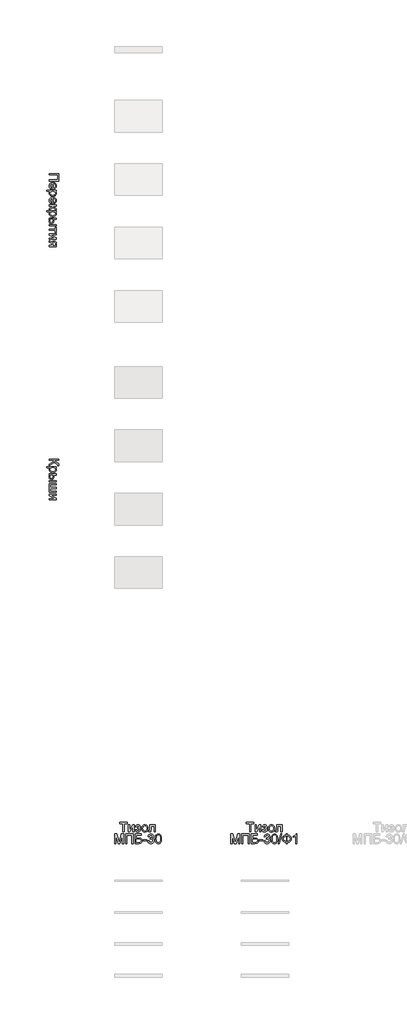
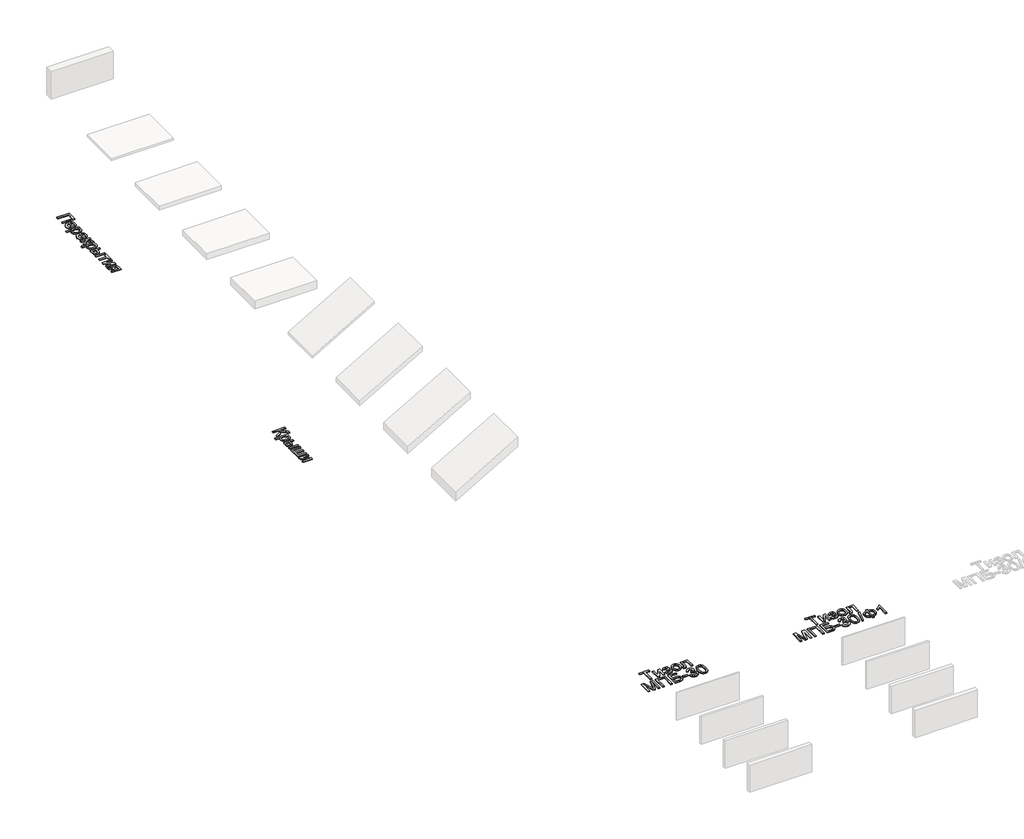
# One storey, part 27 of 35: 4 proxies.
"""IFC4 building model written with IfcOpenShell, lengths in millimetres."""

from ifc_helpers import new_model, si_unit, origin, origin_with_axes, place, context, project, spatial, polyline, outline, extrude, element, save

model = new_model("IFC4")

# Units and contexts
model_context = context("Model", 3, world=origin())
ifc_project = project(units=[si_unit("LENGTHUNIT", "METRE", prefix="MILLI")], contexts=[model_context])

# Site, building, storey
site = spatial("IfcSite", under=ifc_project)
building = spatial("IfcBuilding", under=site)
storey = spatial("IfcBuildingStorey", under=building, Name="Этаж 01", Elevation=0.0)

# Proxies
placement = place(None, origin())
element("IfcBuildingElementProxy", 1, Name="600 мм Arial", ObjectType="600 мм Arial", at=placement, inside=storey, context=model_context, shape_type="SweptSolid", body=[
    extrude(outline(polyline([(23273.4875705, -3136.6767763), (23273.4875705, -3372.1212533), (22972.1186401, -3372.1212533), (22972.1186401, -3334.450137), (23235.8164542, -3334.450137), (23235.8164542, -3174.3478927), (22972.1186401, -3174.3478927), (22972.1186401, -3136.6767763), (23273.4875705, -3136.6767763)])), origin_with_axes(), (0.0, 0.0, 1.0), 20.0),
    extrude(outline(polyline([(23038.0430936, -3588.2887136), (23033.3342041, -3625.2240659), (23005.5039311, -3611.9159348), (22984.7002043, -3590.6799466), (22971.732364, -3561.994348), (22967.4097505, -3526.3373856), (22969.2744524, -3502.9630834), (22974.868558, -3482.1363639), (22984.1920673, -3463.8572273), (22997.2449803, -3448.1256735), (23013.6640136, -3435.4751314), (23033.0858837, -3426.4390298), (23055.5105906, -3421.0173689), (23080.9381343, -3419.2101486), (23107.2279013, -3421.035763), (23130.3998685, -3426.5126062), (23150.4540358, -3435.6406783), (23167.3904031, -3448.4199791), (23180.8456871, -3464.1101462), (23190.4566042, -3481.970817), (23196.2231545, -3502.0019917), (23198.1453379, -3524.2036701), (23196.227753, -3545.6902778), (23190.4749983, -3565.121345), (23180.8870738, -3582.4968715), (23167.4639795, -3597.8168573), (23150.5644004, -3610.3225459), (23130.5470213, -3619.2551806), (23107.4118423, -3624.6147614), (23081.1588634, -3626.4012883), (23071.0053204, -3626.1805591), (23071.0053204, -3456.8812649), (23042.8071655, -3463.4019733), (23022.077015, -3478.5495145), (23009.3299039, -3500.410902), (23005.0808668, -3527.0731496), (23007.0490355, -3547.1227184), (23012.9535415, -3564.0085019), (23023.1622669, -3577.7305004), (23038.0430936, -3588.2887136)]), holes=[polyline([(23108.6764367, -3456.8812649), (23108.6764367, -3588.730172), (23128.5788526, -3583.6350064), (23142.8158858, -3573.6470102), (23156.0596377, -3551.6844551), (23160.4742216, -3524.0565173), (23156.9517515, -3498.6634626), (23146.3843412, -3477.6665977), (23129.9124249, -3463.0708795), (23108.6764367, -3456.8812649)])]), origin_with_axes(), (0.0, 0.0, 1.0), 20.0),
    extrude(outline(polyline([(22887.3586284, -3664.0724046), (23193.4364484, -3664.0724046), (23193.4364484, -3701.7435209), (23156.5010961, -3701.7435209), (23174.7204519, -3714.0307796), (23187.7342775, -3727.7895662), (23195.5425728, -3743.8292212), (23198.1453379, -3762.9590849), (23194.5033062, -3788.4349131), (23183.5772109, -3810.7101679), (23166.0292397, -3828.8467503), (23142.5215802, -3841.9065611), (23114.7648837, -3849.7976299), (23084.4698014, -3852.4279862), (23052.2525357, -3849.4573391), (23023.4381784, -3840.5453977), (22999.4890605, -3825.9772707), (22981.867513, -3806.0380666), (22971.0241911, -3782.8155156), (22967.4097505, -3758.3973482), (22969.8285747, -3741.0793033), (22977.085047, -3725.6190624), (22988.0387334, -3712.3845076), (23001.5491997, -3701.7435209), (22887.3586284, -3701.7435209), (22887.3586284, -3664.0724046)]), holes=[polyline([(23081.0117107, -3701.7435209), (23047.2401435, -3705.817814), (23023.6221194, -3718.0406933), (23009.71618, -3736.0761081), (23005.0808668, -3757.5880078), (23009.8817269, -3779.4493954), (23024.284307, -3797.9446627), (23048.7668538, -3810.5538181), (23083.8076138, -3814.7568699), (23117.39524, -3810.6549856), (23141.3443579, -3798.3493329), (23155.6917557, -3780.3415092), (23160.4742216, -3759.1331122), (23155.388253, -3737.8419417), (23140.1303473, -3719.1443393), (23115.178751, -3706.0937255), (23081.0117107, -3701.7435209)])]), origin_with_axes(), (0.0, 0.0, 1.0), 20.0),
    extrude(outline(polyline([(23038.0430936, -4049.7598884), (23033.3342041, -4086.6952407), (23005.5039311, -4073.3871095), (22984.7002043, -4052.1511213), (22971.732364, -4023.4655228), (22967.4097505, -3987.8085604), (22969.2744524, -3964.4342581), (22974.868558, -3943.6075387), (22984.1920673, -3925.328402), (22997.2449803, -3909.5968482), (23013.6640136, -3896.9463061), (23033.0858837, -3887.9102046), (23055.5105906, -3882.4885437), (23080.9381343, -3880.6813234), (23107.2279013, -3882.5069378), (23130.3998685, -3887.983781), (23150.4540358, -3897.111853), (23167.3904031, -3909.8911538), (23180.8456871, -3925.5813209), (23190.4566042, -3943.4419918), (23196.2231545, -3963.4731664), (23198.1453379, -3985.6748448), (23196.227753, -4007.1614526), (23190.4749983, -4026.5925197), (23180.8870738, -4043.9680462), (23167.4639795, -4059.2880321), (23150.5644004, -4071.7937206), (23130.5470213, -4080.7263553), (23107.4118423, -4086.0859361), (23081.1588634, -4087.8724631), (23071.0053204, -4087.6517339), (23071.0053204, -3918.3524397), (23042.8071655, -3924.8731481), (23022.077015, -3940.0206892), (23009.3299039, -3961.8820768), (23005.0808668, -3988.5443244), (23007.0490355, -4008.5938931), (23012.9535415, -4025.4796767), (23023.1622669, -4039.2016751), (23038.0430936, -4049.7598884)]), holes=[polyline([(23108.6764367, -3918.3524397), (23108.6764367, -4050.2013468), (23128.5788526, -4045.1061811), (23142.8158858, -4035.118185), (23156.0596377, -4013.1556299), (23160.4742216, -3985.527692), (23156.9517515, -3960.1346373), (23146.3843412, -3939.1377724), (23129.9124249, -3924.5420543), (23108.6764367, -3918.3524397)])]), origin_with_axes(), (0.0, 0.0, 1.0), 20.0),
    extrude(outline(polyline([(23193.4364484, -4125.5435794), (23193.4364484, -4163.2146957), (23099.2586576, -4163.2146957), (23100.9509148, -4178.5369808), (23106.0276863, -4188.4514006), (23119.2714381, -4197.2253861), (23145.4646362, -4209.1263687), (23179.4937208, -4226.3064579), (23190.5669688, -4241.4631961), (23193.4364484, -4269.0175575), (23193.4364484, -4276.2280446), (23155.5446029, -4276.2280446), (23155.7653321, -4266.0745015), (23151.7922065, -4247.6804018), (23126.99696, -4234.7309556), (23100.1783626, -4219.5374291), (23087.0449754, -4198.2370616), (23081.7428761, -4210.1748324), (23072.3848779, -4222.0022385), (23041.5011844, -4245.325957), (22972.1186401, -4285.6458237), (22972.1186401, -4242.8243594), (23040.0296564, -4203.3138332), (23068.7612402, -4183.4482054), (23073.9759675, -4174.159185), (23075.7142099, -4163.2146957), (22972.1186401, -4163.2146957), (22972.1186401, -4125.5435794), (23193.4364484, -4125.5435794)])), origin_with_axes(), (0.0, 0.0, 1.0), 20.0),
    extrude(outline(polyline([(22887.3586284, -4309.1902714), (23193.4364484, -4309.1902714), (23193.4364484, -4346.8613877), (23156.5010961, -4346.8613877), (23174.7204519, -4359.1486463), (23187.7342775, -4372.9074329), (23195.5425728, -4388.9470879), (23198.1453379, -4408.0769517), (23194.5033062, -4433.5527798), (23183.5772109, -4455.8280347), (23166.0292397, -4473.964617), (23142.5215802, -4487.0244278), (23114.7648837, -4494.9154966), (23084.4698014, -4497.5458529), (23052.2525357, -4494.5752058), (23023.4381784, -4485.6632645), (22999.4890605, -4471.0951375), (22981.867513, -4451.1559333), (22971.0241911, -4427.9333824), (22967.4097505, -4403.5152149), (22969.8285747, -4386.19717), (22977.085047, -4370.7369292), (22988.0387334, -4357.5023744), (23001.5491997, -4346.8613877), (22887.3586284, -4346.8613877), (22887.3586284, -4309.1902714)]), holes=[polyline([(23081.0117107, -4346.8613877), (23047.2401435, -4350.9356808), (23023.6221194, -4363.1585601), (23009.71618, -4381.1939749), (23005.0808668, -4402.7058745), (23009.8817269, -4424.5672621), (23024.284307, -4443.0625294), (23048.7668538, -4455.6716848), (23083.8076138, -4459.8747366), (23117.39524, -4455.7728524), (23141.3443579, -4443.4671996), (23155.6917557, -4425.4593759), (23160.4742216, -4404.2509789), (23155.388253, -4382.9598085), (23140.1303473, -4364.2622061), (23115.178751, -4351.2115923), (23081.0117107, -4346.8613877)])]), origin_with_axes(), (0.0, 0.0, 1.0), 20.0),
    extrude(outline(polyline([(23193.4364484, -4539.9258587), (23193.4364484, -4577.5969751), (23113.3853262, -4577.5969751), (23113.3853262, -4624.1708356), (23108.6672396, -4664.426323), (23102.7696314, -4680.6430212), (23094.5129799, -4694.2523557), (23084.1823936, -4705.0198019), (23072.0629811, -4712.7108348), (23058.1547424, -4717.3254546), (23042.4576776, -4718.8636612), (23015.5011244, -4713.7041162), (22992.75682, -4698.2254813), (22983.7276163, -4686.3635862), (22977.2781851, -4671.4160809), (22972.1186401, -4632.2642395), (22972.1186401, -4539.9258587), (23193.4364484, -4539.9258587)]), holes=[polyline([(23009.7897564, -4577.5969751), (23009.7897564, -4616.2981609), (23011.7671221, -4646.2989377), (23017.6992193, -4666.2565359), (23027.8251712, -4677.4585426), (23042.3841012, -4681.1925449), (23054.6897539, -4678.4242329), (23065.5606669, -4670.1192968), (23073.1758242, -4652.3597935), (23075.7142099, -4621.2277797), (23075.7142099, -4577.5969751), (23009.7897564, -4577.5969751)])]), origin_with_axes(), (0.0, 0.0, 1.0), 20.0),
    extrude(outline(polyline([(23193.4364484, -4747.1169984), (23193.4364484, -4784.7881147), (22972.1186401, -4784.7881147), (22972.1186401, -4747.1169984), (23193.4364484, -4747.1169984)])), origin_with_axes(), (0.0, 0.0, 1.0), 20.0),
    extrude(outline(polyline([(23193.4364484, -4822.459231), (23193.4364484, -5001.3970335), (23155.7653321, -5001.3970335), (23155.7653321, -4930.7636904), (22972.1186401, -4930.7636904), (22972.1186401, -4893.0925741), (23155.7653321, -4893.0925741), (23155.7653321, -4822.459231), (23193.4364484, -4822.459231)])), origin_with_axes(), (0.0, 0.0, 1.0), 20.0),
    extrude(outline(polyline([(23193.4364484, -5034.3592603), (23193.4364484, -5072.0303766), (23024.652189, -5072.0303766), (23193.4364484, -5164.5894866), (23193.4364484, -5213.2970627), (22972.1186401, -5213.2970627), (22972.1186401, -5175.6259464), (23139.8728299, -5175.6259464), (22972.1186401, -5083.6554476), (22972.1186401, -5034.3592603), (23193.4364484, -5034.3592603)])), origin_with_axes(), (0.0, 0.0, 1.0), 20.0),
    extrude(outline(polyline([(23193.4364484, -5439.3237606), (22972.1186401, -5439.3237606), (22972.1186401, -5401.6526443), (23056.8786518, -5401.6526443), (23056.8786518, -5381.1248289), (23052.0961858, -5353.1657973), (23041.6667313, -5342.0005787), (23019.9432995, -5326.8990228), (22972.1186401, -5296.879852), (22972.1186401, -5253.3226238), (23032.5984401, -5291.1408929), (23054.3034778, -5307.8427355), (23063.9419861, -5323.2202029), (23071.8330549, -5297.4684632), (23086.8242462, -5279.3686691), (23106.7634503, -5268.663303), (23129.4985576, -5265.0948476), (23155.2870855, -5269.9692841), (23175.7045362, -5284.5925934), (23189.0034703, -5308.4497408), (23193.4364484, -5341.0256914), (23193.4364484, -5439.3237606)]), holes=[polyline([(23155.7653321, -5401.6526443), (23155.7653321, -5351.9885749), (23153.5856312, -5326.3380028), (23147.0465288, -5311.7790728), (23137.5827645, -5305.0192412), (23126.6290781, -5302.7659639), (23112.2724832, -5306.086099), (23102.3120782, -5316.046504), (23096.4903456, -5334.4498008), (23094.5497681, -5363.0986112), (23094.5497681, -5401.6526443), (23155.7653321, -5401.6526443)])]), origin_with_axes(), (0.0, 0.0, 1.0), 20.0),
])
element("IfcBuildingElementProxy", 2, Name="600 мм Arial", ObjectType="600 мм Arial", at=placement, inside=storey, context=model_context, shape_type="SweptSolid", body=[
    extrude(outline(polyline([(23273.4875705, -12145.2368465), (23273.4875705, -12182.9079628), (23141.6386635, -12182.9079628), (23144.131064, -12208.4113821), (23151.6082655, -12225.0304512), (23169.2022219, -12238.4673411), (23202.0448871, -12254.4242226), (23244.1673755, -12275.2095554), (23255.5809144, -12285.2343397), (23265.0262846, -12298.7540031), (23271.3722491, -12314.8028551), (23273.4875705, -12332.4152056), (23273.0461121, -12357.1368757), (23235.3749958, -12357.1368757), (23235.595725, -12348.8227426), (23235.8164542, -12340.5086095), (23233.55398, -12323.2549439), (23226.7665571, -12311.0780499), (23212.5111298, -12300.593413), (23187.9917948, -12288.7108246), (23157.4575892, -12274.1335005), (23140.7557467, -12262.0393799), (23125.1575501, -12236.0301229), (23118.9495414, -12250.6212425), (23108.1246137, -12265.1111946), (23072.6240012, -12293.7875961), (22972.1186401, -12357.1368757), (22972.1186401, -12313.4324947), (23057.0258046, -12259.8688762), (23084.2582693, -12239.184711), (23101.355585, -12222.1609717), (23110.3778909, -12204.7509562), (23113.3853262, -12182.9079628), (22972.1186401, -12182.9079628), (22972.1186401, -12145.2368465), (23273.4875705, -12145.2368465)])), origin_with_axes(), (0.0, 0.0, 1.0), 20.0),
    extrude(outline(polyline([(22887.3586284, -12385.3902129), (23193.4364484, -12385.3902129), (23193.4364484, -12423.0613292), (23156.5010961, -12423.0613292), (23174.7204519, -12435.3485879), (23187.7342775, -12449.1073745), (23195.5425728, -12465.1470295), (23198.1453379, -12484.2768932), (23194.5033062, -12509.7527214), (23183.5772109, -12532.0279762), (23166.0292397, -12550.1645586), (23142.5215802, -12563.2243694), (23114.7648837, -12571.1154382), (23084.4698014, -12573.7457945), (23052.2525357, -12570.7751473), (23023.4381784, -12561.863206), (22999.4890605, -12547.295079), (22981.867513, -12527.3558749), (22971.0241911, -12504.1333239), (22967.4097505, -12479.7151565), (22969.8285747, -12462.3971116), (22977.085047, -12446.9368707), (22988.0387334, -12433.7023159), (23001.5491997, -12423.0613292), (22887.3586284, -12423.0613292), (22887.3586284, -12385.3902129)]), holes=[polyline([(23081.0117107, -12423.0613292), (23047.2401435, -12427.1356223), (23023.6221194, -12439.3585016), (23009.71618, -12457.3939164), (23005.0808668, -12478.9058161), (23009.8817269, -12500.7672037), (23024.284307, -12519.262471), (23048.7668538, -12531.8716264), (23083.8076138, -12536.0746782), (23117.39524, -12531.9727939), (23141.3443579, -12519.6671412), (23155.6917557, -12501.6593175), (23160.4742216, -12480.4509205), (23155.388253, -12459.15975), (23140.1303473, -12440.4621476), (23115.178751, -12427.4115338), (23081.0117107, -12423.0613292)])]), origin_with_axes(), (0.0, 0.0, 1.0), 20.0),
    extrude(outline(polyline([(23193.4364484, -12616.1258003), (23193.4364484, -12653.7969166), (23113.3853262, -12653.7969166), (23113.3853262, -12700.3707772), (23108.6672396, -12740.6262645), (23102.7696314, -12756.8429627), (23094.5129799, -12770.4522973), (23084.1823936, -12781.2197434), (23072.0629811, -12788.9107764), (23058.1547424, -12793.5253962), (23042.4576776, -12795.0636028), (23015.5011244, -12789.9040578), (22992.75682, -12774.4254228), (22983.7276163, -12762.5635277), (22977.2781851, -12747.6160224), (22972.1186401, -12708.4641811), (22972.1186401, -12616.1258003), (23193.4364484, -12616.1258003)]), holes=[polyline([(23009.7897564, -12653.7969166), (23009.7897564, -12692.4981025), (23011.7671221, -12722.4988792), (23017.6992193, -12742.4564774), (23027.8251712, -12753.6584842), (23042.3841012, -12757.3924865), (23054.6897539, -12754.6241744), (23065.5606669, -12746.3192384), (23073.1758242, -12728.5597351), (23075.7142099, -12697.4277212), (23075.7142099, -12653.7969166), (23009.7897564, -12653.7969166)])]), origin_with_axes(), (0.0, 0.0, 1.0), 20.0),
    extrude(outline(polyline([(23193.4364484, -12823.31694), (23193.4364484, -12860.9880563), (22972.1186401, -12860.9880563), (22972.1186401, -12823.31694), (23193.4364484, -12823.31694)])), origin_with_axes(), (0.0, 0.0, 1.0), 20.0),
    extrude(outline(polyline([(23193.4364484, -12917.4947308), (23193.4364484, -12955.1658471), (23009.7897564, -12955.1658471), (23009.7897564, -13039.9258587), (23193.4364484, -13039.9258587), (23193.4364484, -13077.5969751), (23009.7897564, -13077.5969751), (23009.7897564, -13162.3569867), (23193.4364484, -13162.3569867), (23193.4364484, -13200.0281031), (22972.1186401, -13200.0281031), (22972.1186401, -12917.4947308), (23193.4364484, -12917.4947308)])), origin_with_axes(), (0.0, 0.0, 1.0), 20.0),
    extrude(outline(polyline([(23193.4364484, -13251.825888), (23193.4364484, -13289.4970043), (23024.652189, -13289.4970043), (23193.4364484, -13382.0561143), (23193.4364484, -13430.7636904), (22972.1186401, -13430.7636904), (22972.1186401, -13393.0925741), (23139.8728299, -13393.0925741), (22972.1186401, -13301.1220753), (22972.1186401, -13251.825888), (23193.4364484, -13251.825888)])), origin_with_axes(), (0.0, 0.0, 1.0), 20.0),
])
element("IfcBuildingElementProxy", 3, Name="600 мм Arial", ObjectType="600 мм Arial", at=placement, inside=storey, context=model_context, shape_type="SweptSolid", body=[
    extrude(outline(polyline([(25296.4713258, -23914.0239469), (25296.4713258, -23650.3261327), (25197.5846455, -23650.3261327), (25197.5846455, -23612.6550164), (25433.0291224, -23612.6550164), (25433.0291224, -23650.3261327), (25334.1424421, -23650.3261327), (25334.1424421, -23914.0239469), (25296.4713258, -23914.0239469)])), origin_with_axes(), (0.0, 0.0, 1.0), 20.0),
    extrude(outline(polyline([(25470.7002387, -23692.7061386), (25508.371355, -23692.7061386), (25508.371355, -23861.490398), (25600.930465, -23692.7061386), (25649.6380412, -23692.7061386), (25649.6380412, -23914.0239469), (25611.9669249, -23914.0239469), (25611.9669249, -23746.2697571), (25519.9964261, -23914.0239469), (25470.7002387, -23914.0239469), (25470.7002387, -23692.7061386)])), origin_with_axes(), (0.0, 0.0, 1.0), 20.0),
    extrude(outline(polyline([(25757.9425006, -23815.1372666), (25757.9425006, -23777.4661503), (25787.6673658, -23775.9946223), (25802.6769512, -23768.1587358), (25807.9744519, -23760.8102929), (25809.7402855, -23751.787987), (25807.3766437, -23741.0734239), (25800.2857182, -23732.7684878), (25789.4607905, -23727.443396), (25775.8951419, -23725.6683653), (25762.1823406, -23727.4341989), (25750.6952253, -23732.7316996), (25741.433796, -23741.5608675), (25734.3980529, -23753.9217026), (25692.018047, -23749.212813), (25703.256842, -23722.4310038), (25720.3449607, -23703.30114), (25743.2824031, -23691.8232218), (25772.0691692, -23687.997249), (25803.559868, -23692.6601533), (25827.3986213, -23706.6488662), (25842.4082067, -23727.1123022), (25847.4114018, -23751.1993758), (25845.6317726, -23763.5602108), (25840.2928852, -23774.5966707), (25831.3947394, -23784.3087554), (25818.9373354, -23792.6964649), (25833.4778712, -23803.1627076), (25843.8429464, -23816.1673362), (25850.0509551, -23831.7471386), (25852.1202913, -23849.9389033), (25846.8687758, -23877.6680087), (25831.1142294, -23899.6397609), (25805.9235098, -23913.9595675), (25772.3634748, -23918.7328364), (25739.5392038, -23914.3182525), (25714.4220605, -23901.0745006), (25697.0120451, -23879.0015809), (25687.3091575, -23848.0994933), (25729.6891633, -23843.3906038), (25736.0351277, -23859.3198942), (25746.6853115, -23871.2024826), (25760.4073099, -23878.5969107), (25775.9687183, -23881.0617201), (25791.1254565, -23878.6980783), (25803.4862916, -23871.6071528), (25811.7084542, -23860.8374074), (25814.449175, -23847.4373057), (25812.7477208, -23836.8239102), (25807.6433581, -23827.6452544), (25793.1488075, -23817.0502529), (25765.3001405, -23814.9165374), (25757.9425006, -23815.1372666)])), origin_with_axes(), (0.0, 0.0, 1.0), 20.0),
    extrude(outline(polyline([(25889.7914076, -23803.3650427), (25891.8285542, -23774.7024368), (25897.9399938, -23750.0037593), (25908.1257266, -23729.2690104), (25922.3857524, -23712.4981899), (25936.7423473, -23701.7790283), (25952.5888642, -23694.1224843), (25969.9253032, -23689.5285578), (25988.7516643, -23687.997249), (26009.5346978, -23689.8619509), (26028.32657, -23695.4560565), (26045.1272808, -23704.7795658), (26059.9368304, -23717.8324788), (26072.0240532, -23734.1733372), (26080.6577838, -23753.3606825), (26085.8380221, -23775.3945148), (26087.5647682, -23800.274834), (26084.5113477, -23838.3322264), (26075.351086, -23867.3029335), (26060.3506976, -23888.9987741), (26039.7768971, -23905.2315672), (26015.3403355, -23915.3575191), (25988.7516643, -23918.7328364), (25967.6651282, -23916.8750323), (25948.6985121, -23911.3016201), (25931.851816, -23902.0125997), (25917.1250399, -23889.0079712), (25905.1665758, -23872.5084637), (25896.6248157, -23852.7348065), (25891.4997596, -23829.6869995), (25889.7914076, -23803.3650427)]), holes=[polyline([(25927.4625239, -23803.2914663), (25931.8219256, -23837.3849302), (25944.9001305, -23861.674339), (25964.5818173, -23876.2148748), (25988.7516643, -23881.0617201), (26012.8111468, -23876.1872837), (26032.4560454, -23861.5639744), (26045.5342503, -23836.9526689), (26049.8936519, -23802.1142439), (26045.5066591, -23769.0140614), (26032.3456808, -23745.0557465), (26012.6731911, -23730.5152106), (25988.7516643, -23725.6683653), (25964.5818173, -23730.4968165), (25944.9001305, -23744.9821701), (25931.8219256, -23769.2163965), (25927.4625239, -23803.2914663)])]), origin_with_axes(), (0.0, 0.0, 1.0), 20.0),
    extrude(outline(polyline([(26148.7803322, -23692.7061386), (26318.3003556, -23692.7061386), (26318.3003556, -23913.8032177), (26280.6292393, -23913.8032177), (26280.6292393, -23730.3772549), (26186.4514485, -23730.3772549), (26186.4514485, -23835.9593875), (26183.9130628, -23884.6669637), (26179.158188, -23895.6942265), (26169.9703352, -23905.2315672), (26156.0276075, -23911.8258519), (26137.0081084, -23914.0239469), (26106.4003264, -23912.1109605), (26106.4003264, -23876.3528306), (26123.2493218, -23876.3528306), (26140.2822581, -23874.035174), (26147.0880751, -23866.6775341), (26148.7803322, -23833.8256719), (26148.7803322, -23692.7061386)])), origin_with_axes(), (0.0, 0.0, 1.0), 20.0),
    extrude(outline(polyline([(25039.836846, -24279.9484004), (25039.836846, -23978.57947), (25104.6576535, -23978.57947), (25166.3146759, -24190.994534), (25178.7490874, -24235.3611026), (25192.2135684, -24187.315714), (25252.8405212, -23978.57947), (25317.6613287, -23978.57947), (25317.6613287, -24279.9484004), (25279.9902124, -24279.9484004), (25279.9902124, -24016.2505863), (25204.2800978, -24279.9484004), (25153.2180769, -24279.9484004), (25077.5079623, -24016.2505863), (25077.5079623, -24279.9484004), (25039.836846, -24279.9484004)])), origin_with_axes(), (0.0, 0.0, 1.0), 20.0),
    extrude(outline(polyline([(25383.5857823, -23978.57947), (25619.0302592, -23978.57947), (25619.0302592, -24279.9484004), (25581.3591429, -24279.9484004), (25581.3591429, -24016.2505863), (25421.2568986, -24016.2505863), (25421.2568986, -24279.9484004), (25383.5857823, -24279.9484004), (25383.5857823, -23978.57947)])), origin_with_axes(), (0.0, 0.0, 1.0), 20.0),
    extrude(outline(polyline([(25684.9547127, -23978.57947), (25873.3102942, -23978.57947), (25873.3102942, -24016.2505863), (25722.625829, -24016.2505863), (25722.625829, -24105.7194875), (25793.1855957, -24105.7194875), (25828.2631439, -24107.6324739), (25855.3576529, -24113.371433), (25876.1613797, -24124.4262869), (25892.3665816, -24142.2869578), (25902.7960362, -24165.2795825), (25906.272521, -24191.730298), (25903.7985146, -24213.9411734), (25896.3764953, -24234.6621268), (25884.0432515, -24252.8079062), (25866.8355711, -24267.2932598), (25840.2928852, -24276.7846152), (25799.9546244, -24279.9484004), (25684.9547127, -24279.9484004), (25684.9547127, -23978.57947)]), holes=[polyline([(25722.625829, -24242.2772841), (25803.3391388, -24242.2772841), (25831.8683875, -24239.1686812), (25852.2674441, -24229.8428727), (25864.5179146, -24214.2998584), (25868.6014047, -24192.5396384), (25866.265354, -24176.3344365), (25859.257202, -24163.0355023), (25848.0827864, -24153.1762649), (25833.247945, -24147.2901529), (25776.4837531, -24143.3906038), (25722.625829, -24143.3906038), (25722.625829, -24242.2772841)])]), origin_with_axes(), (0.0, 0.0, 1.0), 20.0),
    extrude(outline(polyline([(25934.5258582, -24190.4794992), (25934.5258582, -24152.8083829), (26052.2480967, -24152.8083829), (26052.2480967, -24190.4794992), (25934.5258582, -24190.4794992)])), origin_with_axes(), (0.0, 0.0, 1.0), 20.0),
    extrude(outline(polyline([(26085.2103235, -24199.8972783), (26122.8814398, -24195.1883887), (26131.3151345, -24218.8615951), (26143.6667725, -24234.8460678), (26160.543359, -24243.9511472), (26182.5518994, -24246.9861736), (26208.3772155, -24242.810713), (26228.3164196, -24230.2843311), (26241.0635307, -24211.5959257), (26245.3125678, -24188.9343948), (26241.1003189, -24167.4224951), (26228.4635724, -24149.9756915), (26209.3337086, -24138.4149998), (26185.6421082, -24134.5614359), (26159.2281809, -24138.6817143), (26163.4220356, -24101.010598), (26169.4553004, -24101.4520563), (26192.0248608, -24098.7481237), (26212.2031882, -24090.6363257), (26226.4402214, -24076.9143273), (26231.1858992, -24057.3797933), (26227.7462025, -24041.1102121), (26217.4271125, -24027.9124455), (26201.6817631, -24019.1660511), (26181.9632882, -24016.2505863), (26162.2080251, -24019.1936422), (26146.0580055, -24028.0228101), (26134.2673875, -24042.7380899), (26127.5903293, -24063.3394816), (26089.919213, -24058.6305921), (26101.0108552, -24024.8038427), (26120.7477242, -23999.5487437), (26147.7502627, -23983.8217884), (26180.638913, -23978.57947), (26204.3213165, -23981.163841), (26226.0723394, -23988.916954), (26244.4112569, -24001.1490304), (26257.8573438, -24017.1702913), (26266.1070975, -24035.6287704), (26268.8570155, -24055.1725014), (26266.2450533, -24073.3826601), (26258.4091668, -24089.9005617), (26245.4597206, -24103.972048), (26227.5070792, -24114.842961), (26251.0883151, -24124.3711046), (26268.5627099, -24140.5947006), (26279.3784405, -24162.6308321), (26282.9836841, -24189.5965824), (26281.1810623, -24208.708052), (26275.773197, -24226.3112055), (26266.7600881, -24242.4060428), (26254.1417357, -24256.9925639), (26238.7688668, -24269.0958815), (26221.4922086, -24277.7411084), (26202.3117611, -24282.9282446), (26181.2275242, -24284.6572899), (26162.1712369, -24283.1811634), (26144.8072067, -24278.7527839), (26129.1354337, -24271.3721514), (26115.1559179, -24261.0392659), (26103.4342778, -24248.3611326), (26094.536132, -24233.9447569), (26088.4614806, -24217.7901388), (26085.2103235, -24199.8972783)])), origin_with_axes(), (0.0, 0.0, 1.0), 20.0),
    extrude(outline(polyline([(26315.9459108, -24131.6919564), (26318.7142229, -24083.4534297), (26327.0191589, -24044.9821701), (26340.7779455, -24015.6895662), (26359.9078093, -23994.9870069), (26384.5467059, -23982.6813542), (26414.8325911, -23978.57947), (26438.045945, -23981.0074911), (26458.8312778, -23988.2915546), (26476.213702, -24000.1465519), (26489.2183306, -24016.2873745), (26499.0407798, -24036.5760665), (26506.8766663, -24060.8746723), (26512.0086202, -24091.7307746), (26513.7192715, -24131.6919564), (26510.9785506, -24179.6545715), (26502.756388, -24218.0338606), (26489.0803748, -24247.3540556), (26469.9781022, -24268.1393884), (26445.2840233, -24280.5278145), (26414.8325911, -24284.6572899), (26394.0840466, -24282.8638652), (26375.6899469, -24277.483591), (26359.6502919, -24268.5164674), (26345.9650817, -24255.9624943), (26332.8316944, -24233.2687737), (26323.4507035, -24204.9924439), (26317.822109, -24171.1335048), (26315.9459108, -24131.6919564)]), holes=[polyline([(26353.6170272, -24131.61838), (26358.0316111, -24190.8749723), (26363.549841, -24211.142971), (26371.2753629, -24225.1707713), (26390.9938379, -24241.5323231), (26414.8325911, -24246.9861736), (26438.6713444, -24241.513929), (26458.3898194, -24225.0971949), (26466.1153413, -24211.046402), (26471.6335712, -24190.7830018), (26476.0481551, -24131.61838), (26471.780724, -24073.6953598), (26466.4464351, -24053.4940398), (26458.9784306, -24039.1328464), (26439.2967438, -24021.9711513), (26414.3911328, -24016.2505863), (26390.8098969, -24021.2905696), (26371.8639741, -24036.4105196), (26363.8809348, -24052.0455044), (26358.1787639, -24073.1251427), (26353.6170272, -24131.61838)])]), origin_with_axes(), (0.0, 0.0, 1.0), 20.0),
])
element("IfcBuildingElementProxy", 4, Name="600 мм Arial", ObjectType="600 мм Arial", at=placement, inside=storey, context=model_context, shape_type="SweptSolid", body=[
    extrude(outline(polyline([(29296.4713258, -23914.0239469), (29296.4713258, -23650.3261327), (29197.5846455, -23650.3261327), (29197.5846455, -23612.6550164), (29433.0291224, -23612.6550164), (29433.0291224, -23650.3261327), (29334.1424421, -23650.3261327), (29334.1424421, -23914.0239469), (29296.4713258, -23914.0239469)])), origin_with_axes(), (0.0, 0.0, 1.0), 20.0),
    extrude(outline(polyline([(29470.7002387, -23692.7061386), (29508.371355, -23692.7061386), (29508.371355, -23861.490398), (29600.930465, -23692.7061386), (29649.6380412, -23692.7061386), (29649.6380412, -23914.0239469), (29611.9669249, -23914.0239469), (29611.9669249, -23746.2697571), (29519.9964261, -23914.0239469), (29470.7002387, -23914.0239469), (29470.7002387, -23692.7061386)])), origin_with_axes(), (0.0, 0.0, 1.0), 20.0),
    extrude(outline(polyline([(29757.9425006, -23815.1372666), (29757.9425006, -23777.4661503), (29787.6673658, -23775.9946223), (29802.6769512, -23768.1587358), (29807.9744519, -23760.8102929), (29809.7402855, -23751.787987), (29807.3766437, -23741.0734239), (29800.2857182, -23732.7684878), (29789.4607905, -23727.443396), (29775.8951419, -23725.6683653), (29762.1823406, -23727.4341989), (29750.6952253, -23732.7316996), (29741.433796, -23741.5608675), (29734.3980529, -23753.9217026), (29692.018047, -23749.212813), (29703.256842, -23722.4310038), (29720.3449607, -23703.30114), (29743.2824031, -23691.8232218), (29772.0691692, -23687.997249), (29803.559868, -23692.6601533), (29827.3986213, -23706.6488662), (29842.4082067, -23727.1123022), (29847.4114018, -23751.1993758), (29845.6317726, -23763.5602108), (29840.2928852, -23774.5966707), (29831.3947394, -23784.3087554), (29818.9373354, -23792.6964649), (29833.4778712, -23803.1627076), (29843.8429464, -23816.1673362), (29850.0509551, -23831.7471386), (29852.1202913, -23849.9389033), (29846.8687758, -23877.6680087), (29831.1142294, -23899.6397609), (29805.9235098, -23913.9595675), (29772.3634748, -23918.7328364), (29739.5392038, -23914.3182525), (29714.4220605, -23901.0745006), (29697.0120451, -23879.0015809), (29687.3091575, -23848.0994933), (29729.6891633, -23843.3906038), (29736.0351277, -23859.3198942), (29746.6853115, -23871.2024826), (29760.4073099, -23878.5969107), (29775.9687183, -23881.0617201), (29791.1254565, -23878.6980783), (29803.4862916, -23871.6071528), (29811.7084542, -23860.8374074), (29814.449175, -23847.4373057), (29812.7477208, -23836.8239102), (29807.6433581, -23827.6452544), (29793.1488075, -23817.0502529), (29765.3001405, -23814.9165374), (29757.9425006, -23815.1372666)])), origin_with_axes(), (0.0, 0.0, 1.0), 20.0),
    extrude(outline(polyline([(29889.7914076, -23803.3650427), (29891.8285542, -23774.7024368), (29897.9399938, -23750.0037593), (29908.1257266, -23729.2690104), (29922.3857524, -23712.4981899), (29936.7423473, -23701.7790283), (29952.5888642, -23694.1224843), (29969.9253032, -23689.5285578), (29988.7516643, -23687.997249), (30009.5346978, -23689.8619509), (30028.32657, -23695.4560565), (30045.1272808, -23704.7795658), (30059.9368304, -23717.8324788), (30072.0240532, -23734.1733372), (30080.6577838, -23753.3606825), (30085.8380221, -23775.3945148), (30087.5647682, -23800.274834), (30084.5113477, -23838.3322264), (30075.351086, -23867.3029335), (30060.3506976, -23888.9987741), (30039.7768971, -23905.2315672), (30015.3403355, -23915.3575191), (29988.7516643, -23918.7328364), (29967.6651282, -23916.8750323), (29948.6985121, -23911.3016201), (29931.851816, -23902.0125997), (29917.1250399, -23889.0079712), (29905.1665758, -23872.5084637), (29896.6248157, -23852.7348065), (29891.4997596, -23829.6869995), (29889.7914076, -23803.3650427)]), holes=[polyline([(29927.4625239, -23803.2914663), (29931.8219256, -23837.3849302), (29944.9001305, -23861.674339), (29964.5818173, -23876.2148748), (29988.7516643, -23881.0617201), (30012.8111468, -23876.1872837), (30032.4560454, -23861.5639744), (30045.5342503, -23836.9526689), (30049.8936519, -23802.1142439), (30045.5066591, -23769.0140614), (30032.3456808, -23745.0557465), (30012.6731911, -23730.5152106), (29988.7516643, -23725.6683653), (29964.5818173, -23730.4968165), (29944.9001305, -23744.9821701), (29931.8219256, -23769.2163965), (29927.4625239, -23803.2914663)])]), origin_with_axes(), (0.0, 0.0, 1.0), 20.0),
    extrude(outline(polyline([(30148.7803322, -23692.7061386), (30318.3003556, -23692.7061386), (30318.3003556, -23913.8032177), (30280.6292393, -23913.8032177), (30280.6292393, -23730.3772549), (30186.4514485, -23730.3772549), (30186.4514485, -23835.9593875), (30183.9130628, -23884.6669637), (30179.158188, -23895.6942265), (30169.9703352, -23905.2315672), (30156.0276075, -23911.8258519), (30137.0081084, -23914.0239469), (30106.4003264, -23912.1109605), (30106.4003264, -23876.3528306), (30123.2493218, -23876.3528306), (30140.2822581, -23874.035174), (30147.0880751, -23866.6775341), (30148.7803322, -23833.8256719), (30148.7803322, -23692.7061386)])), origin_with_axes(), (0.0, 0.0, 1.0), 20.0),
    extrude(outline(polyline([(28705.5056888, -24279.9484004), (28705.5056888, -23978.57947), (28770.3264963, -23978.57947), (28831.9835187, -24190.994534), (28844.4179301, -24235.3611026), (28857.8824112, -24187.315714), (28918.509364, -23978.57947), (28983.3301715, -23978.57947), (28983.3301715, -24279.9484004), (28945.6590552, -24279.9484004), (28945.6590552, -24016.2505863), (28869.9489406, -24279.9484004), (28818.8869197, -24279.9484004), (28743.1768051, -24016.2505863), (28743.1768051, -24279.9484004), (28705.5056888, -24279.9484004)])), origin_with_axes(), (0.0, 0.0, 1.0), 20.0),
    extrude(outline(polyline([(29049.2546251, -23978.57947), (29284.699102, -23978.57947), (29284.699102, -24279.9484004), (29247.0279857, -24279.9484004), (29247.0279857, -24016.2505863), (29086.9257414, -24016.2505863), (29086.9257414, -24279.9484004), (29049.2546251, -24279.9484004), (29049.2546251, -23978.57947)])), origin_with_axes(), (0.0, 0.0, 1.0), 20.0),
    extrude(outline(polyline([(29350.6235555, -23978.57947), (29538.979137, -23978.57947), (29538.979137, -24016.2505863), (29388.2946718, -24016.2505863), (29388.2946718, -24105.7194875), (29458.8544385, -24105.7194875), (29493.9319867, -24107.6324739), (29521.0264957, -24113.371433), (29541.8302225, -24124.4262869), (29558.0354244, -24142.2869578), (29568.4648789, -24165.2795825), (29571.9413638, -24191.730298), (29569.4673574, -24213.9411734), (29562.0453381, -24234.6621268), (29549.7120942, -24252.8079062), (29532.5044139, -24267.2932598), (29505.961728, -24276.7846152), (29465.6234672, -24279.9484004), (29350.6235555, -24279.9484004), (29350.6235555, -23978.57947)]), holes=[polyline([(29388.2946718, -24242.2772841), (29469.0079815, -24242.2772841), (29497.5372303, -24239.1686812), (29517.9362869, -24229.8428727), (29530.1867573, -24214.2998584), (29534.2702475, -24192.5396384), (29531.9341968, -24176.3344365), (29524.9260448, -24163.0355023), (29513.7516292, -24153.1762649), (29498.9167878, -24147.2901529), (29442.1525959, -24143.3906038), (29388.2946718, -24143.3906038), (29388.2946718, -24242.2772841)])]), origin_with_axes(), (0.0, 0.0, 1.0), 20.0),
    extrude(outline(polyline([(29600.194701, -24190.4794992), (29600.194701, -24152.8083829), (29717.9169395, -24152.8083829), (29717.9169395, -24190.4794992), (29600.194701, -24190.4794992)])), origin_with_axes(), (0.0, 0.0, 1.0), 20.0),
    extrude(outline(polyline([(29750.8791663, -24199.8972783), (29788.5502826, -24195.1883887), (29796.9839773, -24218.8615951), (29809.3356153, -24234.8460678), (29826.2122018, -24243.9511472), (29848.2207422, -24246.9861736), (29874.0460582, -24242.810713), (29893.9852624, -24230.2843311), (29906.7323735, -24211.5959257), (29910.9814106, -24188.9343948), (29906.7691617, -24167.4224951), (29894.1324152, -24149.9756915), (29875.0025514, -24138.4149998), (29851.3109509, -24134.5614359), (29824.8970237, -24138.6817143), (29829.0908784, -24101.010598), (29835.1241431, -24101.4520563), (29857.6937036, -24098.7481237), (29877.872031, -24090.6363257), (29892.1090642, -24076.9143273), (29896.8547419, -24057.3797933), (29893.4150453, -24041.1102121), (29883.0959553, -24027.9124455), (29867.3506059, -24019.1660511), (29847.632131, -24016.2505863), (29827.8768678, -24019.1936422), (29811.7268483, -24028.0228101), (29799.9362303, -24042.7380899), (29793.2591721, -24063.3394816), (29755.5880558, -24058.6305921), (29766.6796979, -24024.8038427), (29786.416567, -23999.5487437), (29813.4191054, -23983.8217884), (29846.3077558, -23978.57947), (29869.9901592, -23981.163841), (29891.7411822, -23988.916954), (29910.0800997, -24001.1490304), (29923.5261866, -24017.1702913), (29931.7759403, -24035.6287704), (29934.5258582, -24055.1725014), (29931.9138961, -24073.3826601), (29924.0780096, -24089.9005617), (29911.1285634, -24103.972048), (29893.175922, -24114.842961), (29916.7571579, -24124.3711046), (29934.2315526, -24140.5947006), (29945.0472833, -24162.6308321), (29948.6525269, -24189.5965824), (29946.8499051, -24208.708052), (29941.4420398, -24226.3112055), (29932.4289309, -24242.4060428), (29919.8105784, -24256.9925639), (29904.4377096, -24269.0958815), (29887.1610514, -24277.7411084), (29867.9806038, -24282.9282446), (29846.896367, -24284.6572899), (29827.8400796, -24283.1811634), (29810.4760495, -24278.7527839), (29794.8042765, -24271.3721514), (29780.8247607, -24261.0392659), (29769.1031206, -24248.3611326), (29760.2049748, -24233.9447569), (29754.1303234, -24217.7901388), (29750.8791663, -24199.8972783)])), origin_with_axes(), (0.0, 0.0, 1.0), 20.0),
    extrude(outline(polyline([(29981.6147536, -24131.6919564), (29984.3830656, -24083.4534297), (29992.6880017, -24044.9821701), (30006.4467883, -24015.6895662), (30025.5766521, -23994.9870069), (30050.2155487, -23982.6813542), (30080.5014339, -23978.57947), (30103.7147878, -23981.0074911), (30124.5001206, -23988.2915546), (30141.8825448, -24000.1465519), (30154.8871734, -24016.2873745), (30164.7096226, -24036.5760665), (30172.5455091, -24060.8746723), (30177.677463, -24091.7307746), (30179.3881142, -24131.6919564), (30176.6473934, -24179.6545715), (30168.4252308, -24218.0338606), (30154.7492176, -24247.3540556), (30135.646945, -24268.1393884), (30110.9528661, -24280.5278145), (30080.5014339, -24284.6572899), (30059.7528894, -24282.8638652), (30041.3587896, -24277.483591), (30025.3191347, -24268.5164674), (30011.6339244, -24255.9624943), (29998.5005372, -24233.2687737), (29989.1195463, -24204.9924439), (29983.4909518, -24171.1335048), (29981.6147536, -24131.6919564)]), holes=[polyline([(30019.2858699, -24131.61838), (30023.7004539, -24190.8749723), (30029.2186838, -24211.142971), (30036.9442057, -24225.1707713), (30056.6626806, -24241.5323231), (30080.5014339, -24246.9861736), (30104.3401872, -24241.513929), (30124.0586622, -24225.0971949), (30131.7841841, -24211.046402), (30137.302414, -24190.7830018), (30141.7169979, -24131.61838), (30137.4495668, -24073.6953598), (30132.1152779, -24053.4940398), (30124.6472734, -24039.1328464), (30104.9655866, -24021.9711513), (30080.0599755, -24016.2505863), (30056.4787396, -24021.2905696), (30037.5328169, -24036.4105196), (30029.5497776, -24052.0455044), (30023.8476067, -24073.1251427), (30019.2858699, -24131.61838)])]), origin_with_axes(), (0.0, 0.0, 1.0), 20.0),
    extrude(outline(polyline([(30193.5147829, -24279.9484004), (30278.2747945, -23978.57947), (30312.2670909, -23978.57947), (30227.5070792, -24279.9484004), (30193.5147829, -24279.9484004)])), origin_with_axes(), (0.0, 0.0, 1.0), 20.0),
    extrude(outline(polyline([(30452.5037075, -24016.2505863), (30452.5037075, -23978.57947), (30490.1748238, -23978.57947), (30490.1748238, -24016.2505863), (30517.0463042, -24019.5707213), (30540.933342, -24026.4409175), (30561.8359372, -24036.861175), (30579.7540896, -24050.8314938), (30594.1267793, -24067.5379349), (30604.3929862, -24086.1665594), (30610.5527104, -24106.7173674), (30612.6059518, -24129.1903588), (30610.6170897, -24151.2126947), (30604.6505036, -24171.5151823), (30594.7061934, -24190.0978216), (30580.7841592, -24206.9606126), (30563.1879035, -24221.1700546), (30542.220929, -24231.7926472), (30517.8832358, -24238.8283904), (30490.1748238, -24242.2772841), (30490.1748238, -24279.9484004), (30452.5037075, -24279.9484004), (30452.5037075, -24242.2772841), (30427.3359805, -24239.4698846), (30404.3663484, -24233.1078254), (30383.5948112, -24223.1911063), (30365.021369, -24209.7197275), (30349.7312736, -24193.2501105), (30338.8097768, -24174.3386766), (30332.2568788, -24152.9854261), (30330.0725795, -24129.1903588), (30332.249981, -24105.2872261), (30338.7821857, -24083.9040852), (30349.6691935, -24065.0409359), (30364.9110044, -24048.6977782), (30383.4499577, -24035.3574574), (30404.2283926, -24025.5028184), (30427.2463092, -24019.1338614), (30452.5037075, -24016.2505863)]), holes=[polyline([(30452.5037075, -24053.9217026), (30418.2263026, -24059.9549673), (30391.1777789, -24074.9645527), (30380.9253675, -24085.6699188), (30373.6022165, -24098.2882712), (30369.208326, -24112.81961), (30367.7436958, -24129.2639352), (30369.1899319, -24145.5588083), (30373.5286401, -24160.0096729), (30380.7598206, -24172.6165291), (30390.8834733, -24183.3793767), (30417.8584206, -24198.5269178), (30452.5037075, -24204.6061678), (30452.5037075, -24053.9217026)]), polyline([(30490.1748238, -24053.9217026), (30490.1748238, -24204.6061678), (30525.4179189, -24198.379765), (30552.2733045, -24183.2322239), (30562.1877243, -24172.5061645), (30569.2694527, -24159.9360965), (30574.9348354, -24129.2639352), (30569.3706203, -24099.0056411), (30562.4153513, -24086.5114488), (30552.6779747, -24075.7738931), (30525.9237566, -24060.451608), (30490.1748238, -24053.9217026)])]), origin_with_axes(), (0.0, 0.0, 1.0), 20.0),
    extrude(outline(polyline([(30791.5437542, -24279.9484004), (30753.8726379, -24279.9484004), (30753.8726379, -24045.0925347), (30718.1880844, -24070.5131806), (30678.5304053, -24089.5326797), (30678.5304053, -24053.9217026), (30708.1173148, -24037.8268653), (30733.7494928, -24018.6786074), (30753.9554114, -23998.316339), (30767.2635425, -23978.57947), (30791.5437542, -23978.57947), (30791.5437542, -24279.9484004)])), origin_with_axes(), (0.0, 0.0, 1.0), 20.0),
])

save(model, "model.ifc")
